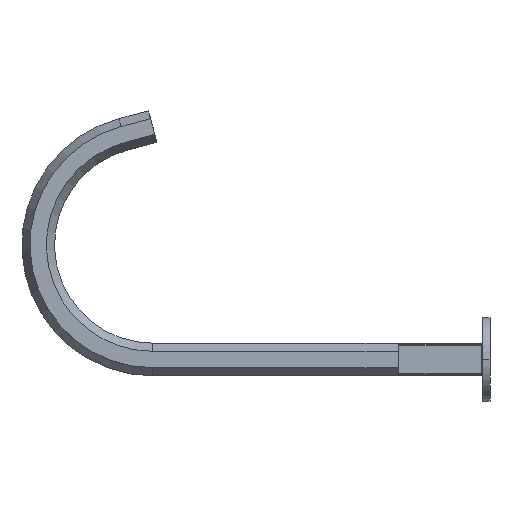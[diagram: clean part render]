
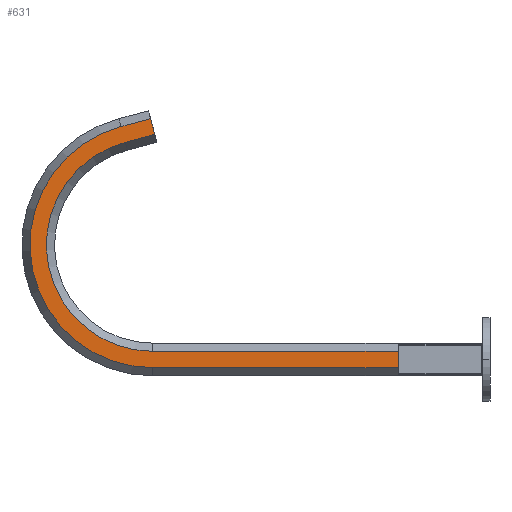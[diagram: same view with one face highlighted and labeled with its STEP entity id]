
A CAD part, left-side view. The second image highlights one B-rep face of the part: STEP entity #631.
In plain terms, the highlighted planar face has unit normal (-1, 0, 0).
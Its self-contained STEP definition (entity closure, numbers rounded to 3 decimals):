
#107=DIRECTION('',(0.,1.,0.));
#108=VECTOR('',#107,244.7);
#109=CARTESIAN_POINT('',(-10.5,5.8,6.062));
#110=LINE('',#109,#108);
#127=DIRECTION('',(0.,0.,1.));
#128=VECTOR('',#127,12.124);
#129=CARTESIAN_POINT('',(-10.5,5.8,-6.062));
#130=LINE('',#129,#128);
#170=CARTESIAN_POINT('',(-10.5,250.5,85.));
#171=DIRECTION('',(1.,0.,0.));
#172=DIRECTION('',(0.,0.,-1.));
#173=AXIS2_PLACEMENT_3D('',#170,#171,#172);
#175=DIRECTION('',(0.,-0.966,0.259));
#176=VECTOR('',#175,22.782);
#177=CARTESIAN_POINT('',(-10.5,274.069,172.959));
#178=LINE('',#177,#176);
#179=DIRECTION('',(0.,0.966,-0.259));
#180=VECTOR('',#179,22.782);
#181=CARTESIAN_POINT('',(-10.5,248.925,167.144));
#182=LINE('',#181,#180);
#183=CARTESIAN_POINT('',(-10.5,250.5,85.));
#184=DIRECTION('',(-1.,0.,0.));
#185=DIRECTION('',(0.,0.259,0.966));
#186=AXIS2_PLACEMENT_3D('',#183,#184,#185);
#188=DIRECTION('',(0.,1.,0.));
#189=VECTOR('',#188,244.7);
#190=CARTESIAN_POINT('',(-10.5,5.8,-6.062));
#191=LINE('',#190,#189);
#208=DIRECTION('',(0.,0.259,0.966));
#209=VECTOR('',#208,12.124);
#210=CARTESIAN_POINT('',(-10.5,248.925,167.144));
#211=LINE('',#210,#209);
#314=CARTESIAN_POINT('',(-10.5,270.931,161.248));
#315=VERTEX_POINT('',#314);
#316=CARTESIAN_POINT('',(-10.5,248.925,167.144));
#317=VERTEX_POINT('',#316);
#318=CARTESIAN_POINT('',(-10.5,250.5,6.062));
#319=VERTEX_POINT('',#318);
#322=CARTESIAN_POINT('',(-10.5,5.8,6.062));
#323=VERTEX_POINT('',#322);
#326=CARTESIAN_POINT('',(-10.5,5.8,-6.062));
#327=VERTEX_POINT('',#326);
#336=CARTESIAN_POINT('',(-10.5,250.5,-6.062));
#337=CARTESIAN_POINT('',(-10.5,274.069,172.959));
#338=VERTEX_POINT('',#336);
#339=VERTEX_POINT('',#337);
#340=CARTESIAN_POINT('',(-10.5,252.063,178.856));
#341=VERTEX_POINT('',#340);
#613=CARTESIAN_POINT('',(-10.5,5.5,6.062));
#614=DIRECTION('',(1.,0.,0.));
#615=DIRECTION('',(0.,0.,-1.));
#616=AXIS2_PLACEMENT_3D('',#613,#614,#615);
#617=PLANE('',#616);
#618=ORIENTED_EDGE('',*,*,#596,.T.);
#620=ORIENTED_EDGE('',*,*,#619,.T.);
#622=ORIENTED_EDGE('',*,*,#621,.F.);
#623=ORIENTED_EDGE('',*,*,#442,.T.);
#624=ORIENTED_EDGE('',*,*,#464,.T.);
#625=ORIENTED_EDGE('',*,*,#487,.F.);
#626=ORIENTED_EDGE('',*,*,#530,.F.);
#628=ORIENTED_EDGE('',*,*,#627,.T.);
#629=EDGE_LOOP('',(#618,#620,#622,#623,#624,#625,#626,#628));
#630=FACE_OUTER_BOUND('',#629,.F.);
#174=CIRCLE('',#173,91.062);
#187=CIRCLE('',#186,78.938);
#442=EDGE_CURVE('',#317,#315,#182,.T.);
#464=EDGE_CURVE('',#315,#319,#187,.T.);
#487=EDGE_CURVE('',#323,#319,#110,.T.);
#530=EDGE_CURVE('',#327,#323,#130,.T.);
#596=EDGE_CURVE('',#338,#339,#174,.T.);
#619=EDGE_CURVE('',#339,#341,#178,.T.);
#621=EDGE_CURVE('',#317,#341,#211,.T.);
#627=EDGE_CURVE('',#327,#338,#191,.T.);
#631=ADVANCED_FACE('',(#630),#617,.F.);
